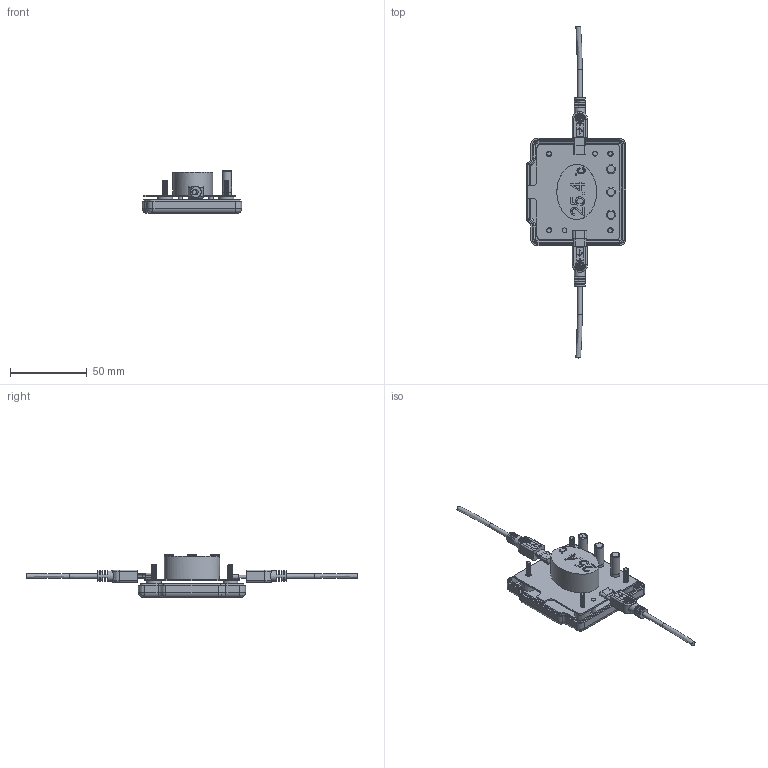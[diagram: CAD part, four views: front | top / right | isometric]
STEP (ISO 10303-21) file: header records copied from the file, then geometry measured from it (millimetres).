
FILE_DESCRIPTION(/* description */ (''),/* implementation_level */ '2;1');
FILE_NAME(/* name */ '5.stp',/* time_stamp */ '2017-05-17T23:16:14+08:00',/* author */ (''),/* organization */ (''),/* preprocessor_version */ 'ST-DEVELOPER v15',/* originating_system */ 'SIEMENS PLM Software NX 8.5',/* authorisation */ '');
FILE_SCHEMA (('AUTOMOTIVE_DESIGN { 1 0 10303 214 3 1 1 1 }'));
Products named in the file (1): Admi09DC788534oi
Bounding box: 65 x 217 x 27.83 mm (x, y, z)
Volume: 33213.3 mm3; surface area: 31609.8 mm2
Topology: 17 solids, 17 shells, 693 faces, 1702 edges, 1115 vertices
Faces by surface type: plane 391, cylinder 211, bspline 33, extrusion 25, torus 17, cone 12, sphere 4
Full cylindrical faces by diameter (mm): 1.024 x1, 3 x7, 3.5 x7, 4 x6, 6 x6, 6.6 x4, 7 x2
Entity records: 55455 total; most frequent: CARTESIAN_POINT 38684, DIRECTION 3247, ORIENTED_EDGE 3212, EDGE_CURVE 1606, AXIS2_PLACEMENT_3D 1180, VERTEX_POINT 1080, VECTOR 887, LINE 862
